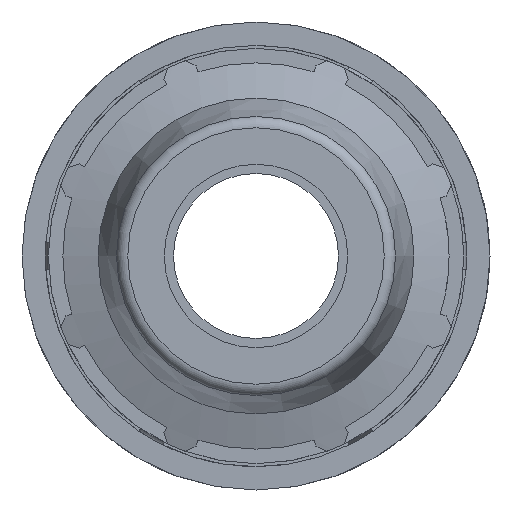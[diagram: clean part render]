
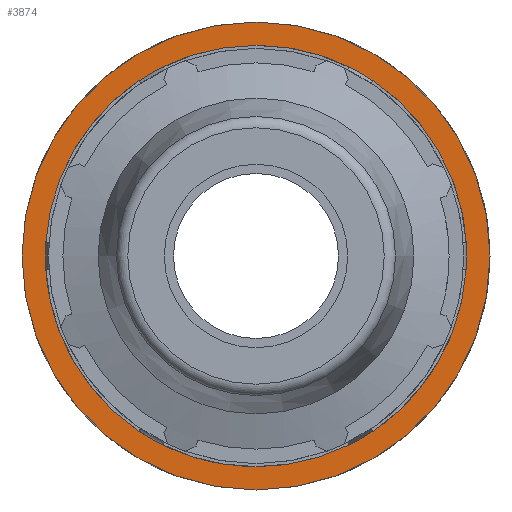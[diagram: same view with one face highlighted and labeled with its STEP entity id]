
A CAD part, left-side view. The second image highlights one B-rep face of the part: STEP entity #3874.
In plain terms, the highlighted planar face has unit normal (-1, 0, 0).
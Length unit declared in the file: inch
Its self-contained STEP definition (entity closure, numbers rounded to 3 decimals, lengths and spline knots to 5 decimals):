
#48=FACE_BOUND('',#530,.T.);
#334=FACE_OUTER_BOUND('',#529,.T.);
#529=EDGE_LOOP('',(#3168,#3169));
#530=EDGE_LOOP('',(#3170,#3171));
#607=CIRCLE('',#4005,1.065);
#608=CIRCLE('',#4006,1.065);
#734=CIRCLE('',#4251,0.852);
#735=CIRCLE('',#4252,0.852);
#1472=VERTEX_POINT('',#5677);
#1473=VERTEX_POINT('',#5679);
#1700=VERTEX_POINT('',#6688);
#1701=VERTEX_POINT('',#6689);
#1878=EDGE_CURVE('',#1472,#1473,#607,.T.);
#1879=EDGE_CURVE('',#1473,#1472,#608,.T.);
#2233=EDGE_CURVE('',#1700,#1701,#734,.T.);
#2234=EDGE_CURVE('',#1701,#1700,#735,.T.);
#3168=ORIENTED_EDGE('',*,*,#1879,.F.);
#3169=ORIENTED_EDGE('',*,*,#1878,.F.);
#3170=ORIENTED_EDGE('',*,*,#2233,.T.);
#3171=ORIENTED_EDGE('',*,*,#2234,.T.);
#3509=PLANE('',#4250);
#3874=ADVANCED_FACE('',(#334,#48),#3509,.T.);
#4005=AXIS2_PLACEMENT_3D('',#5680,#4559,#4560);
#4006=AXIS2_PLACEMENT_3D('',#5681,#4561,#4562);
#4250=AXIS2_PLACEMENT_3D('',#6687,#5213,#5214);
#4251=AXIS2_PLACEMENT_3D('',#6690,#5215,#5216);
#4252=AXIS2_PLACEMENT_3D('',#6691,#5217,#5218);
#4559=DIRECTION('center_axis',(1.,0.,0.));
#4560=DIRECTION('ref_axis',(0.,0.,-1.));
#4561=DIRECTION('center_axis',(1.,0.,0.));
#4562=DIRECTION('ref_axis',(0.,0.,-1.));
#5213=DIRECTION('center_axis',(-1.,0.,0.));
#5214=DIRECTION('ref_axis',(0.,0.,1.));
#5215=DIRECTION('center_axis',(1.,0.,0.));
#5216=DIRECTION('ref_axis',(0.,0.,-1.));
#5217=DIRECTION('center_axis',(1.,0.,0.));
#5218=DIRECTION('ref_axis',(0.,0.,-1.));
#5677=CARTESIAN_POINT('',(1.04078,-1.065,0.));
#5679=CARTESIAN_POINT('',(1.04078,0.,1.065));
#5680=CARTESIAN_POINT('Origin',(1.04078,0.,0.));
#5681=CARTESIAN_POINT('Origin',(1.04078,0.,0.));
#6687=CARTESIAN_POINT('Origin',(1.04078,1.065,0.));
#6688=CARTESIAN_POINT('',(1.04078,0.852,0.));
#6689=CARTESIAN_POINT('',(1.04078,-0.852,0.));
#6690=CARTESIAN_POINT('Origin',(1.04078,0.,0.));
#6691=CARTESIAN_POINT('Origin',(1.04078,0.,0.));
